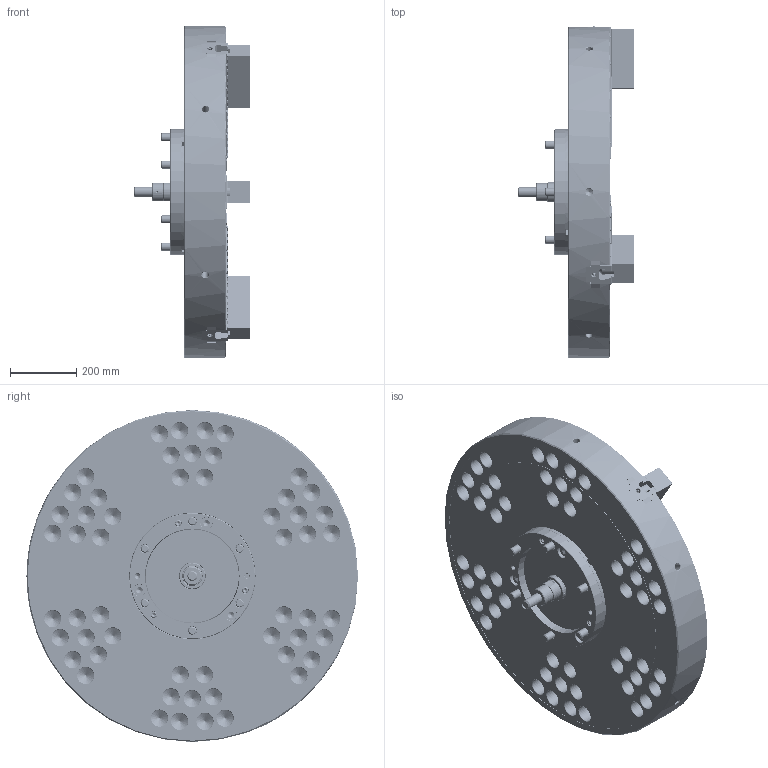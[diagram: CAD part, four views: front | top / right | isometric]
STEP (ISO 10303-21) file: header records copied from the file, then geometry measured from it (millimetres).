
FILE_DESCRIPTION (( 'STEP AP214' ), '1' );
FILE_NAME ('DT1_NV40C15_OUTSIDE_VIEW_UC.STEP', '2026-03-24T06:46:58', ( '' ), ( '' ), 'SwSTEP 2.0', 'SolidWorks 2022', '' );
FILE_SCHEMA (( 'AUTOMOTIVE_DESIGN' ));
Length unit declared in the file: millimetre
Products named in the file (18): DT1_NV40C15_DN^DT1_NV40C1500; DT1_NV40C15_M24x160^DT1_NV40C1500; DT1_NV40C15_OUTSIDE_VIEW_UC; DT1_NV40C15_SOFTJAW^DT1_NV40C1500; DT1_NV40C15_BASE^DT1_NV40C1500; DT1_NV40C15_M20x60^DT1_NV40C1500; Copy of 0030112055^DT1_NV40C1500; DT1_NV40C15_BP^DT1_NV40C1500; DT1_NV40C15_M6x12^DT1_NV40C1500; DT1_NV40C15_S39^DT1_NV40C1500_円筒用; Copy of 61P321208^DT1_NV40C1500; DT1_NV40C15_ORING^DT1_NV40C1500; DT1_NV40C15_COVERFOOTER^DT1_NV40C1500; DT1_NV40C15_CAP^DT1_NV40C1500; DT1_NV40C15_DRAWSCREW^DT1_NV40C1500; DT1_NV40C15_P80^DT1_NV40C1500_円筒用; DT1_NV40C15_COVER^DT1_NV40C1500; DT1_NV40C15_TNUT^DT1_NV40C1500
Assembly tree (48 placements, depth 2):
  DT1_NV40C15_OUTSIDE_VIEW_UC
    DT1_NV40C15_SOFTJAW^DT1_NV40C1500  x3
    DT1_NV40C15_TNUT^DT1_NV40C1500  x6
    DT1_NV40C15_COVER^DT1_NV40C1500
    DT1_NV40C15_DRAWSCREW^DT1_NV40C1500
    Copy of 61P321208^DT1_NV40C1500
    DT1_NV40C15_COVERFOOTER^DT1_NV40C1500
    DT1_NV40C15_M6x12^DT1_NV40C1500  x6
    Copy of 0030112055^DT1_NV40C1500  x3
    DT1_NV40C15_M20x60^DT1_NV40C1500  x6
    DT1_NV40C15_M24x160^DT1_NV40C1500  x6
    DT1_NV40C15_S39^DT1_NV40C1500_円筒用
    DT1_NV40C15_P80^DT1_NV40C1500_円筒用
    DT1_NV40C15_CAP^DT1_NV40C1500  x6
    DT1_NV40C15_ORING^DT1_NV40C1500  x3
    DT1_NV40C15_DN^DT1_NV40C1500
    DT1_NV40C15_BP^DT1_NV40C1500
    DT1_NV40C15_BASE^DT1_NV40C1500
Bounding box: 352 x 1001.6 x 1000 mm (x, y, z)
Volume: 95484950.8 mm3; surface area: 4109265 mm2
Topology: 48 solids, 126 shells, 12666 faces, 35522 edges, 23136 vertices
Faces by surface type: plane 7755, cylinder 2492, cone 1204, bspline 1049, torus 160, sphere 6
Entity records: 373170 total; most frequent: CARTESIAN_POINT 108519, ORIENTED_EDGE 58976, DIRECTION 48467, EDGE_CURVE 29488, LINE 21509, VECTOR 21509, VERTEX_POINT 19390, AXIS2_PLACEMENT_3D 13479
